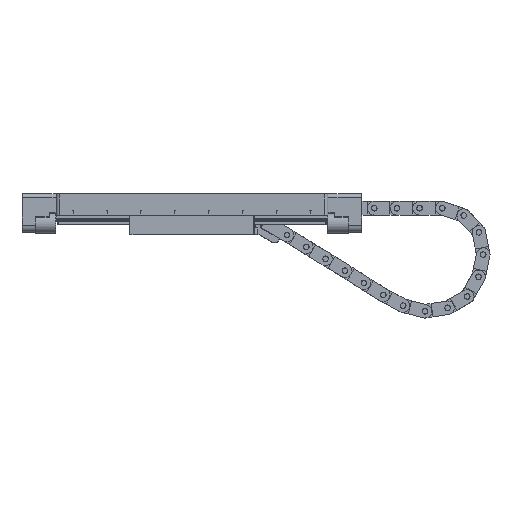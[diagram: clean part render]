
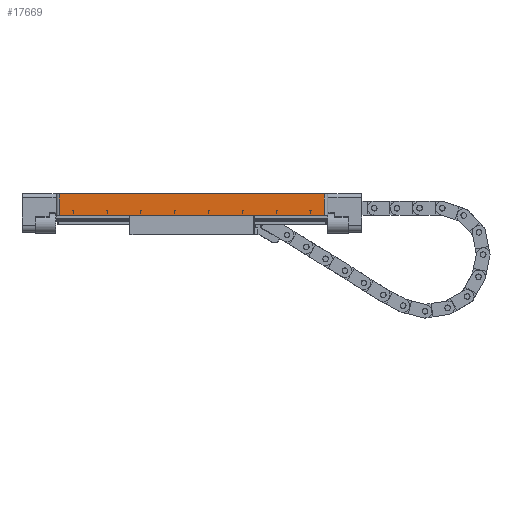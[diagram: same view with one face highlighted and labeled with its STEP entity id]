
A CAD part, left-side view. The second image highlights one B-rep face of the part: STEP entity #17669.
In plain terms, the highlighted planar face has unit normal (-1, 0, 0).
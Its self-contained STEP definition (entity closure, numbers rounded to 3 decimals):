
#667 = VERTEX_POINT ( 'NONE', #22904 ) ;
#2019 = ORIENTED_EDGE ( 'NONE', *, *, #19953, .F. ) ;
#2507 = DIRECTION ( 'NONE',  ( 0., 0., -1. ) ) ;
#2688 = ORIENTED_EDGE ( 'NONE', *, *, #3271, .T. ) ;
#2903 = CARTESIAN_POINT ( 'NONE',  ( -41., -100., -15.5 ) ) ;
#3271 = EDGE_CURVE ( 'NONE', #667, #14213, #21864, .T. ) ;
#6110 = AXIS2_PLACEMENT_3D ( 'NONE', #19595, #16358, #22485 ) ;
#6494 = FACE_OUTER_BOUND ( 'NONE', #26394, .T. ) ;
#7827 = EDGE_CURVE ( 'NONE', #14213, #25513, #20340, .T. ) ;
#8133 = LINE ( 'NONE', #2903, #20078 ) ;
#8762 = DIRECTION ( 'NONE',  ( 0., 1., 0. ) ) ;
#8820 = VECTOR ( 'NONE', #28876, 1000. ) ;
#11362 = LINE ( 'NONE', #33982, #23417 ) ;
#13566 = PLANE ( 'NONE',  #6110 ) ;
#14213 = VERTEX_POINT ( 'NONE', #34960 ) ;
#14854 = ORIENTED_EDGE ( 'NONE', *, *, #7827, .T. ) ;
#16358 = DIRECTION ( 'NONE',  ( -1., 0., 0. ) ) ;
#17669 = ADVANCED_FACE ( 'NONE', ( #6494 ), #13566, .T. ) ;
#19595 = CARTESIAN_POINT ( 'NONE',  ( -41., -100., 0. ) ) ;
#19953 = EDGE_CURVE ( 'NONE', #667, #25721, #8133, .T. ) ;
#20078 = VECTOR ( 'NONE', #35372, 1000. ) ;
#20340 = LINE ( 'NONE', #30985, #32764 ) ;
#21864 = LINE ( 'NONE', #26057, #8820 ) ;
#22485 = DIRECTION ( 'NONE',  ( 0., 0., 1. ) ) ;
#22904 = CARTESIAN_POINT ( 'NONE',  ( -41., -97.5, -15.5 ) ) ;
#23417 = VECTOR ( 'NONE', #2507, 1000. ) ;
#25513 = VERTEX_POINT ( 'NONE', #31828 ) ;
#25636 = CARTESIAN_POINT ( 'NONE',  ( -41., 97.5, -15.5 ) ) ;
#25721 = VERTEX_POINT ( 'NONE', #25636 ) ;
#26057 = CARTESIAN_POINT ( 'NONE',  ( -41., -97.5, 0. ) ) ;
#26394 = EDGE_LOOP ( 'NONE', ( #2019, #2688, #14854, #26840 ) ) ;
#26840 = ORIENTED_EDGE ( 'NONE', *, *, #27295, .T. ) ;
#27295 = EDGE_CURVE ( 'NONE', #25513, #25721, #11362, .T. ) ;
#28876 = DIRECTION ( 'NONE',  ( 0., 0., 1. ) ) ;
#30985 = CARTESIAN_POINT ( 'NONE',  ( -41., -100., 0. ) ) ;
#31828 = CARTESIAN_POINT ( 'NONE',  ( -41., 97.5, 0. ) ) ;
#32764 = VECTOR ( 'NONE', #8762, 1000. ) ;
#33982 = CARTESIAN_POINT ( 'NONE',  ( -41., 97.5, -15.5 ) ) ;
#34960 = CARTESIAN_POINT ( 'NONE',  ( -41., -97.5, 0. ) ) ;
#35372 = DIRECTION ( 'NONE',  ( 0., 1., 0. ) ) ;
